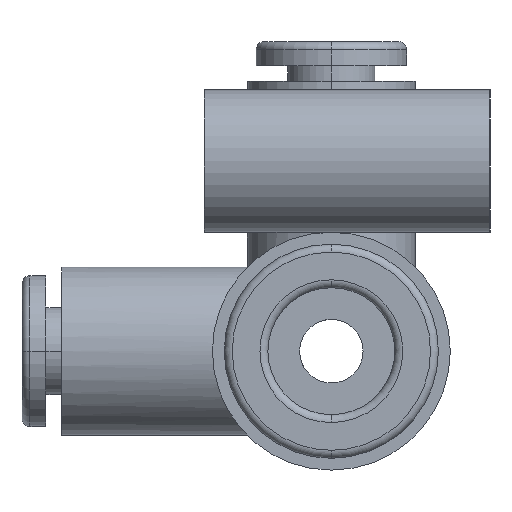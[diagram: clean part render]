
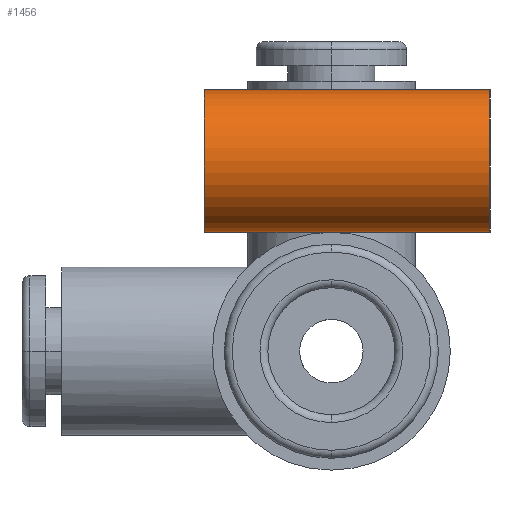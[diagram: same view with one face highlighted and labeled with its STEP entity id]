
A CAD part, left-side view. The second image highlights one B-rep face of the part: STEP entity #1456.
In plain terms, the highlighted cylindrical face has radius 4.5 mm (diameter 9 mm), a partial arc.
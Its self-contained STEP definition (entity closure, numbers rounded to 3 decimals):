
#467 = VERTEX_POINT ( 'NONE', #5197 ) ;
#701 = CARTESIAN_POINT ( 'NONE',  ( -20.095, -0.028, 7.5 ) ) ;
#837 = DIRECTION ( 'NONE',  ( 0., 0., 1. ) ) ;
#895 = CYLINDRICAL_SURFACE ( 'NONE', #4689, 4.5 ) ;
#902 = DIRECTION ( 'NONE',  ( 0., 1., 0. ) ) ;
#1007 = CARTESIAN_POINT ( 'NONE',  ( -20., -0.122, 7.499 ) ) ;
#1128 = CARTESIAN_POINT ( 'NONE',  ( -20.095, 0., 7.5 ) ) ;
#1179 = CARTESIAN_POINT ( 'NONE',  ( -20., -10., 16.499 ) ) ;
#1281 = ORIENTED_EDGE ( 'NONE', *, *, #2338, .F. ) ;
#1362 = CIRCLE ( 'NONE', #5155, 4.5 ) ;
#1380 = CARTESIAN_POINT ( 'NONE',  ( -20.029, 0.122, 7.499 ) ) ;
#1433 = CARTESIAN_POINT ( 'NONE',  ( -20., 8., 7.499 ) ) ;
#1456 = ADVANCED_FACE ( 'NONE', ( #5633 ), #895, .T. ) ;
#1582 = CIRCLE ( 'NONE', #3375, 4.5 ) ;
#1731 = EDGE_CURVE ( 'NONE', #5867, #467, #1828, .T. ) ;
#1783 = CARTESIAN_POINT ( 'NONE',  ( -20., -10., 11.999 ) ) ;
#1828 = LINE ( 'NONE', #1433, #5269 ) ;
#2006 = VECTOR ( 'NONE', #6015, 1000. ) ;
#2182 = EDGE_CURVE ( 'NONE', #5867, #4573, #1582, .T. ) ;
#2311 = ORIENTED_EDGE ( 'NONE', *, *, #4997, .T. ) ;
#2338 = EDGE_CURVE ( 'NONE', #4573, #4838, #3995, .T. ) ;
#2429 = CARTESIAN_POINT ( 'NONE',  ( -20., 8., 7.499 ) ) ;
#2832 = EDGE_LOOP ( 'NONE', ( #1281, #5171, #4514, #3283, #5206, #2311, #4381 ) ) ;
#2884 = DIRECTION ( 'NONE',  ( 0., -1., 0. ) ) ;
#3083 = CARTESIAN_POINT ( 'NONE',  ( -20., 8., 7.499 ) ) ;
#3283 = ORIENTED_EDGE ( 'NONE', *, *, #5981, .F. ) ;
#3310 = DIRECTION ( 'NONE',  ( 0., -1., 0. ) ) ;
#3375 = AXIS2_PLACEMENT_3D ( 'NONE', #3900, #4892, #837 ) ;
#3446 = CARTESIAN_POINT ( 'NONE',  ( -20.087, 0.057, 7.5 ) ) ;
#3473 = EDGE_CURVE ( 'NONE', #6132, #4838, #1362, .T. ) ;
#3512 = CARTESIAN_POINT ( 'NONE',  ( -20., -10., 7.499 ) ) ;
#3780 = VERTEX_POINT ( 'NONE', #5702 ) ;
#3880 = CARTESIAN_POINT ( 'NONE',  ( -20., 0.122, 7.499 ) ) ;
#3892 = DIRECTION ( 'NONE',  ( 0., 0., -1. ) ) ;
#3900 = CARTESIAN_POINT ( 'NONE',  ( -20., 8., 11.999 ) ) ;
#3940 = CARTESIAN_POINT ( 'NONE',  ( -20.095, 0., 7.5 ) ) ;
#3995 = LINE ( 'NONE', #5550, #2006 ) ;
#4036 = VERTEX_POINT ( 'NONE', #1007 ) ;
#4082 = VECTOR ( 'NONE', #3310, 1000. ) ;
#4095 = B_SPLINE_CURVE_WITH_KNOTS ( 'NONE', 3,
 ( #3940, #4340, #3446, #6333, #1380, #3880 ),
 .UNSPECIFIED., .F., .F.,
 ( 4, 2, 4 ),
 ( 0.001, 0.001, 0.001 ),
 .UNSPECIFIED. ) ;
#4097 = CARTESIAN_POINT ( 'NONE',  ( -20.055, -0.104, 7.499 ) ) ;
#4216 = CARTESIAN_POINT ( 'NONE',  ( -20., 8., 16.499 ) ) ;
#4340 = CARTESIAN_POINT ( 'NONE',  ( -20.095, 0.028, 7.5 ) ) ;
#4381 = ORIENTED_EDGE ( 'NONE', *, *, #3473, .T. ) ;
#4514 = ORIENTED_EDGE ( 'NONE', *, *, #1731, .T. ) ;
#4573 = VERTEX_POINT ( 'NONE', #4216 ) ;
#4604 = CARTESIAN_POINT ( 'NONE',  ( -20., 8., 11.999 ) ) ;
#4689 = AXIS2_PLACEMENT_3D ( 'NONE', #4604, #2884, #3892 ) ;
#4838 = VERTEX_POINT ( 'NONE', #1179 ) ;
#4892 = DIRECTION ( 'NONE',  ( 0., 1., 0. ) ) ;
#4997 = EDGE_CURVE ( 'NONE', #4036, #6132, #6461, .T. ) ;
#5155 = AXIS2_PLACEMENT_3D ( 'NONE', #1783, #902, #6350 ) ;
#5171 = ORIENTED_EDGE ( 'NONE', *, *, #2182, .F. ) ;
#5188 = CARTESIAN_POINT ( 'NONE',  ( -20.029, -0.122, 7.499 ) ) ;
#5197 = CARTESIAN_POINT ( 'NONE',  ( -20., 0.122, 7.499 ) ) ;
#5206 = ORIENTED_EDGE ( 'NONE', *, *, #5565, .F. ) ;
#5269 = VECTOR ( 'NONE', #5864, 1000. ) ;
#5349 = B_SPLINE_CURVE_WITH_KNOTS ( 'NONE', 3,
 ( #5621, #5188, #4097, #5718, #701, #1128 ),
 .UNSPECIFIED., .F., .F.,
 ( 4, 2, 4 ),
 ( 0., 0., 0.001 ),
 .UNSPECIFIED. ) ;
#5550 = CARTESIAN_POINT ( 'NONE',  ( -20., 8., 16.499 ) ) ;
#5565 = EDGE_CURVE ( 'NONE', #4036, #3780, #5349, .T. ) ;
#5621 = CARTESIAN_POINT ( 'NONE',  ( -20., -0.122, 7.499 ) ) ;
#5633 = FACE_OUTER_BOUND ( 'NONE', #2832, .T. ) ;
#5702 = CARTESIAN_POINT ( 'NONE',  ( -20.095, 0., 7.5 ) ) ;
#5718 = CARTESIAN_POINT ( 'NONE',  ( -20.087, -0.057, 7.5 ) ) ;
#5864 = DIRECTION ( 'NONE',  ( 0., -1., 0. ) ) ;
#5867 = VERTEX_POINT ( 'NONE', #3083 ) ;
#5981 = EDGE_CURVE ( 'NONE', #3780, #467, #4095, .T. ) ;
#6015 = DIRECTION ( 'NONE',  ( 0., -1., 0. ) ) ;
#6132 = VERTEX_POINT ( 'NONE', #3512 ) ;
#6333 = CARTESIAN_POINT ( 'NONE',  ( -20.055, 0.104, 7.499 ) ) ;
#6350 = DIRECTION ( 'NONE',  ( 0., 0., 1. ) ) ;
#6461 = LINE ( 'NONE', #2429, #4082 ) ;
